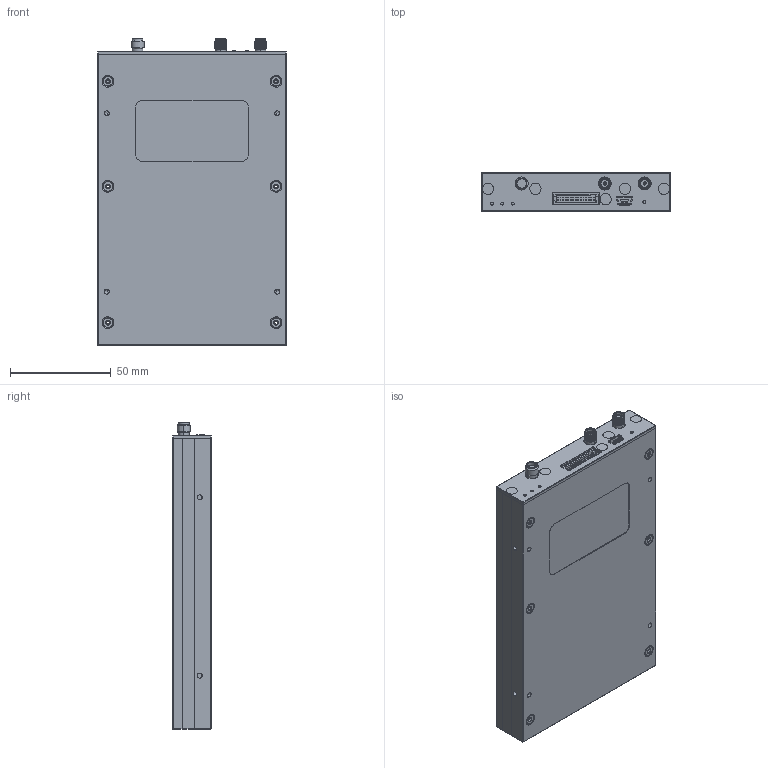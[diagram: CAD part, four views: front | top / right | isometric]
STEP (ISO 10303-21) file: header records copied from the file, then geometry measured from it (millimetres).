
FILE_DESCRIPTION((''),'2;1');
FILE_NAME('REDFALCONV2_SW0004','2020-08-31T12:55:49',('sci'),(''),'CREO PARAMETRIC BY PTC INC, 2020053','CREO PARAMETRIC BY PTC INC, 2020053','');
FILE_SCHEMA(('CONFIG_CONTROL_DESIGN'));
Length unit declared in the file: inch
Products named in the file (1): REDFALCONV2_SW0004
Bounding box: 93.66 x 19.16 x 152.27 mm (x, y, z)
Surface area: 87880.6 mm2 (no closed solid volume)
Topology: 0 solids, 162 shells, 764 faces, 3433 edges, 2772 vertices
Faces by surface type: plane 336, cylinder 231, cone 114, sphere 58, torus 20, bspline 5
Entity records: 41583 total; most frequent: CARTESIAN_POINT 14195, DIRECTION 5802, ORIENTED_EDGE 4625, EDGE_CURVE 3429, VERTEX_POINT 2772, AXIS2_PLACEMENT_3D 2222, CIRCLE 1463, VECTOR 1358
